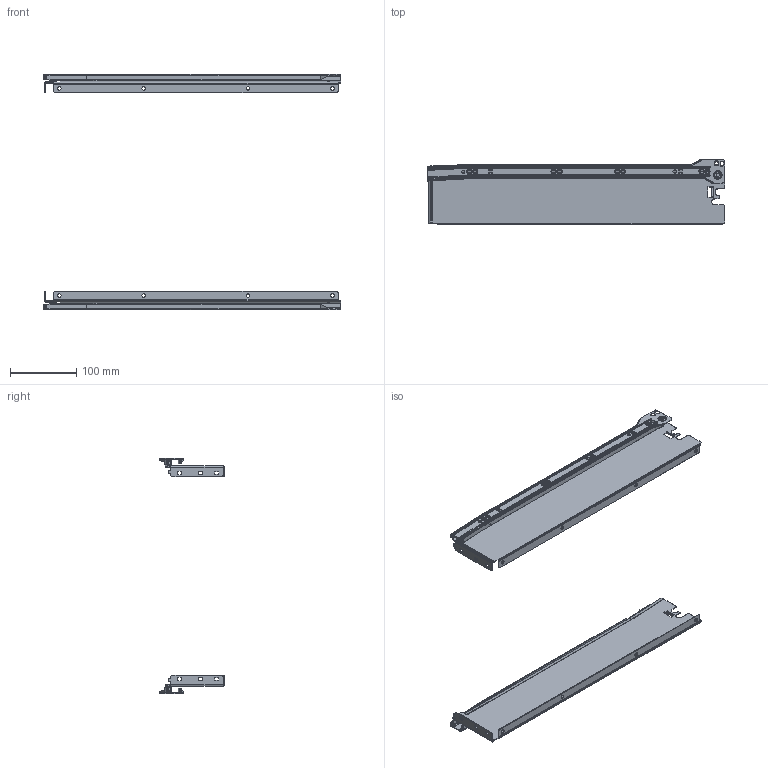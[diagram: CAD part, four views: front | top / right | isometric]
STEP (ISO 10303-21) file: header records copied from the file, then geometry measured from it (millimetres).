
FILE_DESCRIPTION (( 'STEP AP214' ), '1' );
FILE_NAME ('Výška 86 - 450 mm Š + B-286631 a 286638.STEP', '2019-06-19T10:56:13', ( '' ), ( '' ), 'SwSTEP 2.0', 'SolidWorks 2019', '' );
FILE_SCHEMA (( 'AUTOMOTIVE_DESIGN' ));
Length unit declared in the file: millimetre
Products named in the file (5): DS-132CR-450; DS-132CL-450; 132-86DR-450_132-86DL-450; 132-86DL-450_132-86DL-450; Výška 86 - 450 mm Š + B-286631 a 286638
Assembly tree (4 placements, depth 2):
  Výška 86 - 450 mm Š + B-286631 a 286638
    132-86DL-450_132-86DL-450
    DS-132CR-450
    DS-132CL-450
    132-86DR-450_132-86DL-450
Bounding box: 450.67 x 98.59 x 357 mm (x, y, z)
Volume: 146226 mm3; surface area: 272429.2 mm2
Topology: 4 solids, 4 shells, 786 faces, 2068 edges, 1290 vertices
Faces by surface type: plane 412, cylinder 276, cone 52, bspline 30, torus 16
Entity records: 24874 total; most frequent: CARTESIAN_POINT 5263, ORIENTED_EDGE 4120, DIRECTION 4008, EDGE_CURVE 2060, AXIS2_PLACEMENT_3D 1347, LINE 1314, VECTOR 1314, VERTEX_POINT 1290
